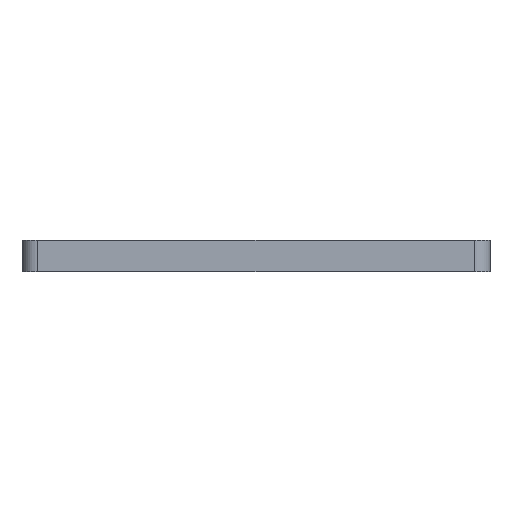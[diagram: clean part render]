
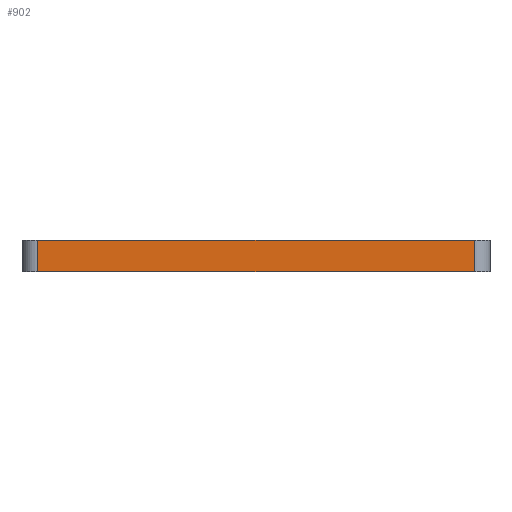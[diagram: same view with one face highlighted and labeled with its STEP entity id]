
A CAD part, left-side view. The second image highlights one B-rep face of the part: STEP entity #902.
In plain terms, the highlighted planar face has unit normal (-1, 0, 0).
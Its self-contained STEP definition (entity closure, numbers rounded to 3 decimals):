
#124 = VERTEX_POINT ( 'NONE', #372 ) ;
#134 = VERTEX_POINT ( 'NONE', #373 ) ;
#137 = EDGE_CURVE ( 'NONE', #124, #134, #409, .T. ) ;
#372 = CARTESIAN_POINT ( 'NONE',  ( -90., 42., 6. ) ) ;
#373 = CARTESIAN_POINT ( 'NONE',  ( -90., -42., 6. ) ) ;
#408 = VECTOR ( 'NONE', #418, 1000. ) ;
#409 = LINE ( 'NONE', #415, #408 ) ;
#415 = CARTESIAN_POINT ( 'NONE',  ( -90., -45., 6. ) ) ;
#418 = DIRECTION ( 'NONE',  ( 0., -1., 0. ) ) ;
#569 = CARTESIAN_POINT ( 'NONE',  ( -90., 42., 0. ) ) ;
#574 = CARTESIAN_POINT ( 'NONE',  ( -90., -42., 0. ) ) ;
#589 = CARTESIAN_POINT ( 'NONE',  ( -90., 42., 6. ) ) ;
#594 = VECTOR ( 'NONE', #615, 1000. ) ;
#595 = LINE ( 'NONE', #589, #594 ) ;
#615 = DIRECTION ( 'NONE',  ( 0., 0., -1. ) ) ;
#636 = DIRECTION ( 'NONE',  ( 0., 0., 1. ) ) ;
#637 = VECTOR ( 'NONE', #636, 1000. ) ;
#638 = LINE ( 'NONE', #646, #637 ) ;
#643 = DIRECTION ( 'NONE',  ( 0., -1., 0. ) ) ;
#644 = VECTOR ( 'NONE', #643, 1000. ) ;
#645 = CARTESIAN_POINT ( 'NONE',  ( -90., -45., 0. ) ) ;
#646 = CARTESIAN_POINT ( 'NONE',  ( -90., -42., 6. ) ) ;
#649 = LINE ( 'NONE', #645, #644 ) ;
#656 = DIRECTION ( 'NONE',  ( 0., 0., -1. ) ) ;
#657 = DIRECTION ( 'NONE',  ( 1., 0., 0. ) ) ;
#658 = CARTESIAN_POINT ( 'NONE',  ( -90., -45., 6. ) ) ;
#660 = PLANE ( 'NONE',  #672 ) ;
#661 = FACE_OUTER_BOUND ( 'NONE', #865, .T. ) ;
#672 = AXIS2_PLACEMENT_3D ( 'NONE', #658, #657, #656 ) ;
#830 = VERTEX_POINT ( 'NONE', #574 ) ;
#834 = VERTEX_POINT ( 'NONE', #569 ) ;
#857 = EDGE_CURVE ( 'NONE', #124, #834, #595, .T. ) ;
#861 = EDGE_CURVE ( 'NONE', #834, #830, #649, .T. ) ;
#864 = EDGE_CURVE ( 'NONE', #830, #134, #638, .T. ) ;
#865 = EDGE_LOOP ( 'NONE', ( #867, #871, #869, #879 ) ) ;
#867 = ORIENTED_EDGE ( 'NONE', *, *, #861, .T. ) ;
#869 = ORIENTED_EDGE ( 'NONE', *, *, #137, .F. ) ;
#871 = ORIENTED_EDGE ( 'NONE', *, *, #864, .T. ) ;
#879 = ORIENTED_EDGE ( 'NONE', *, *, #857, .T. ) ;
#902 = ADVANCED_FACE ( 'NONE', ( #661 ), #660, .F. ) ;
